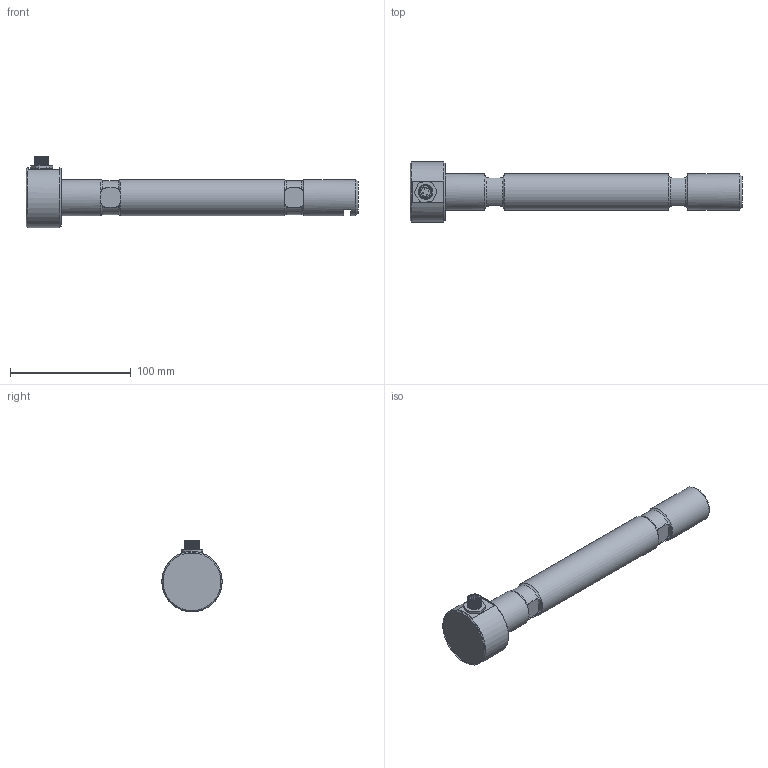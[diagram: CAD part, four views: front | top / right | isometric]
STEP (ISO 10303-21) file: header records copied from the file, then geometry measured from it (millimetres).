
FILE_DESCRIPTION(/* description */ ('Alibre Inc.'),/* implementation_level */ '2;1');
FILE_NAME(/* name */ 'export0',/* time_stamp */ '2015-03-20T08:51:45+01:00',/* author */ (''),/* organization */ (''),/* preprocessor_version */ 'ST-DEVELOPER v14',/* originating_system */ 'Alibre',/* authorisation */ '');
FILE_SCHEMA (('CONFIG_CONTROL_DESIGN'));
Length unit declared in the file: centimetre
Products named in the file (6): ID_1; ID_2; ID_3; ID_4
Bounding box: 275 x 50 x 59.32 mm (x, y, z)
Volume: 221462.1 mm3; surface area: 36252.2 mm2
Topology: 8 solids, 8 shells, 170 faces, 383 edges, 235 vertices
Faces by surface type: plane 71, cylinder 60, bspline 23, torus 9, cone 7
Full cylindrical faces by diameter (mm): 0.5 x8, 8 x2, 10 x4, 11.5 x1, 13 x1, 14.376 x1, 30 x3, 48 x1, 50 x1
Entity records: 16254 total; most frequent: CARTESIAN_POINT 12620, ORIENTED_EDGE 682, DIRECTION 459, EDGE_CURVE 336, VERTEX_POINT 220, FACE_BOUND 215, EDGE_LOOP 214, AXIS2_PLACEMENT_3D 206
